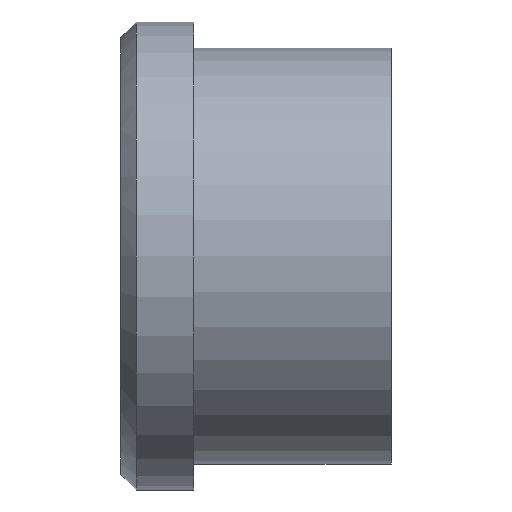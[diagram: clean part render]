
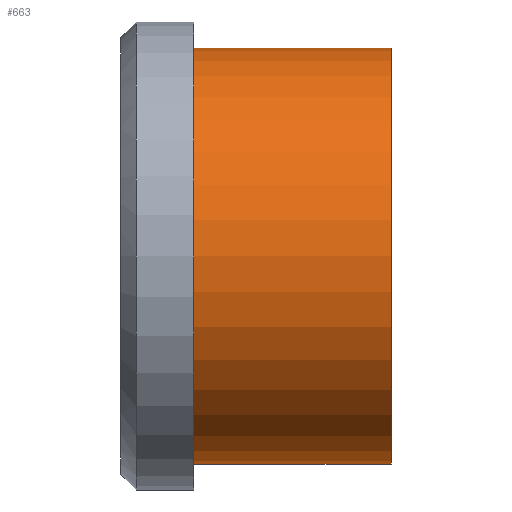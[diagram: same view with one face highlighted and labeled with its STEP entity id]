
A CAD part, front view. The second image highlights one B-rep face of the part: STEP entity #663.
In plain terms, the highlighted cylindrical face has radius 20 mm (diameter 40 mm), a partial arc.
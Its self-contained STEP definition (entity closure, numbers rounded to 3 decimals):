
#501=CARTESIAN_POINT('Vertex',(0.,0.,-20.)) ;
#506=CARTESIAN_POINT('Axis2P3D Location',(0.,0.,0.)) ;
#510=CARTESIAN_POINT('Vertex',(0.,-20.,0.)) ;
#513=CARTESIAN_POINT('Axis2P3D Location',(0.,0.,0.)) ;
#517=CARTESIAN_POINT('Vertex',(0.,0.,20.)) ;
#603=CARTESIAN_POINT('Line Origine',(19.,0.,20.)) ;
#607=CARTESIAN_POINT('Vertex',(19.,0.,20.)) ;
#621=CARTESIAN_POINT('Vertex',(19.,0.,-20.)) ;
#624=CARTESIAN_POINT('Line Origine',(19.,0.,-20.)) ;
#638=CARTESIAN_POINT('Axis2P3D Location',(19.,0.,0.)) ;
#643=CARTESIAN_POINT('Axis2P3D Location',(19.,0.,0.)) ;
#647=CARTESIAN_POINT('Vertex',(19.,-20.,0.)) ;
#650=CARTESIAN_POINT('Axis2P3D Location',(19.,0.,0.)) ;
#507=DIRECTION('Axis2P3D Direction',(1.,0.,-0.)) ;
#514=DIRECTION('Axis2P3D Direction',(1.,0.,-0.)) ;
#604=DIRECTION('Vector Direction',(-1.,0.,0.)) ;
#625=DIRECTION('Vector Direction',(-1.,0.,0.)) ;
#639=DIRECTION('Axis2P3D Direction',(-1.,-0.,-0.)) ;
#640=DIRECTION('Axis2P3D XDirection',(0.,0.,-1.)) ;
#644=DIRECTION('Axis2P3D Direction',(-1.,-0.,-0.)) ;
#651=DIRECTION('Axis2P3D Direction',(-1.,-0.,-0.)) ;
#508=AXIS2_PLACEMENT_3D('Circle Axis2P3D',#506,#507,$) ;
#515=AXIS2_PLACEMENT_3D('Circle Axis2P3D',#513,#514,$) ;
#641=AXIS2_PLACEMENT_3D('Cylinder Axis2P3D',#638,#639,#640) ;
#645=AXIS2_PLACEMENT_3D('Circle Axis2P3D',#643,#644,$) ;
#652=AXIS2_PLACEMENT_3D('Circle Axis2P3D',#650,#651,$) ;
#656=ORIENTED_EDGE('',*,*,#628,.T.) ;
#657=ORIENTED_EDGE('',*,*,#649,.F.) ;
#658=ORIENTED_EDGE('',*,*,#654,.F.) ;
#659=ORIENTED_EDGE('',*,*,#609,.T.) ;
#660=ORIENTED_EDGE('',*,*,#519,.T.) ;
#661=ORIENTED_EDGE('',*,*,#512,.T.) ;
#605=VECTOR('Line Direction',#604,1.) ;
#626=VECTOR('Line Direction',#625,1.) ;
#663=ADVANCED_FACE('353-32X26',(#662),#642,.T.) ;
#509=CIRCLE('generated circle',#508,20.) ;
#516=CIRCLE('generated circle',#515,20.) ;
#646=CIRCLE('generated circle',#645,20.) ;
#653=CIRCLE('generated circle',#652,20.) ;
#642=CYLINDRICAL_SURFACE('generated cylinder',#641,20.) ;
#512=EDGE_CURVE('',#511,#502,#509,.T.) ;
#519=EDGE_CURVE('',#518,#511,#516,.T.) ;
#609=EDGE_CURVE('',#608,#518,#606,.T.) ;
#628=EDGE_CURVE('',#502,#622,#627,.F.) ;
#649=EDGE_CURVE('',#648,#622,#646,.F.) ;
#654=EDGE_CURVE('',#608,#648,#653,.F.) ;
#655=EDGE_LOOP('',(#656,#657,#658,#659,#660,#661)) ;
#662=FACE_OUTER_BOUND('',#655,.T.) ;
#606=LINE('Line',#603,#605) ;
#627=LINE('Line',#624,#626) ;
#502=VERTEX_POINT('',#501) ;
#511=VERTEX_POINT('',#510) ;
#518=VERTEX_POINT('',#517) ;
#608=VERTEX_POINT('',#607) ;
#622=VERTEX_POINT('',#621) ;
#648=VERTEX_POINT('',#647) ;
